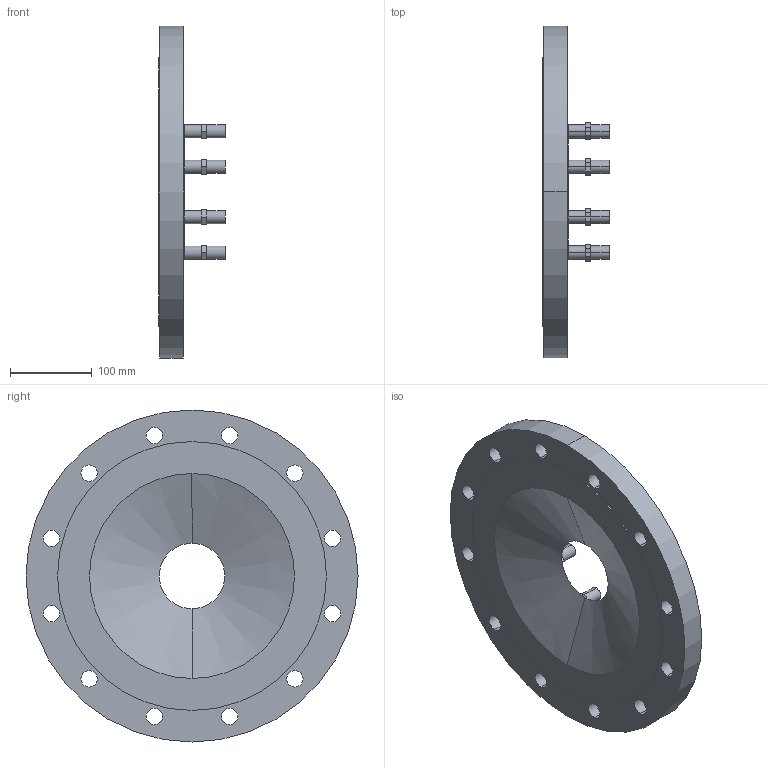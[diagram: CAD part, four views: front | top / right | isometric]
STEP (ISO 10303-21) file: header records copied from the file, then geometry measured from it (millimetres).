
FILE_DESCRIPTION(('STEP AP214'),'1');
FILE_NAME('S:/EK/USER/CAT6/3DHomepage_27-04-2012/VDI-Rohrsysteme_und_Stahlrohre/0802_(8110)/0802_PN16_DN250_DN80.STP','2013-01-25T07:57:17',(' '),(' '),'Spatial InterOp 3D',' ',' ');
FILE_SCHEMA(('automotive_design'));
Length unit declared in the file: millimetre
Products named in the file (18): 3D-Objekt
Bounding box: 81 x 405 x 405 mm (x, y, z)
Volume: 3100226.9 mm3; surface area: 393906.6 mm2
Topology: 18 solids, 18 shells, 135 faces, 294 edges, 196 vertices
Faces by surface type: plane 85, cylinder 48, cone 2
Entity records: 5260 total; most frequent: DIRECTION 700, CARTESIAN_POINT 643, ORIENTED_EDGE 588, EDGE_CURVE 294, AXIS2_PLACEMENT_3D 253, VERTEX_POINT 196, LINE 194, VECTOR 194
